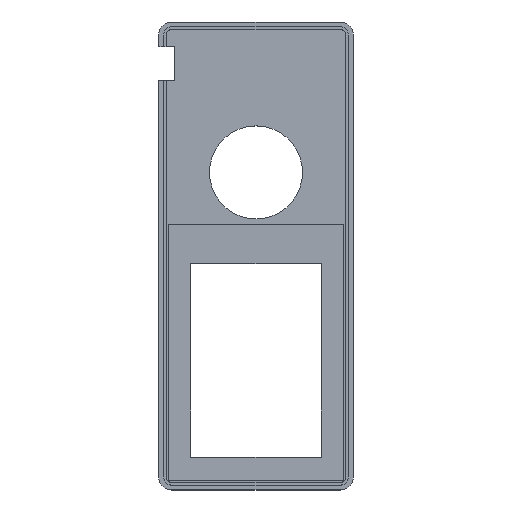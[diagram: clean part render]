
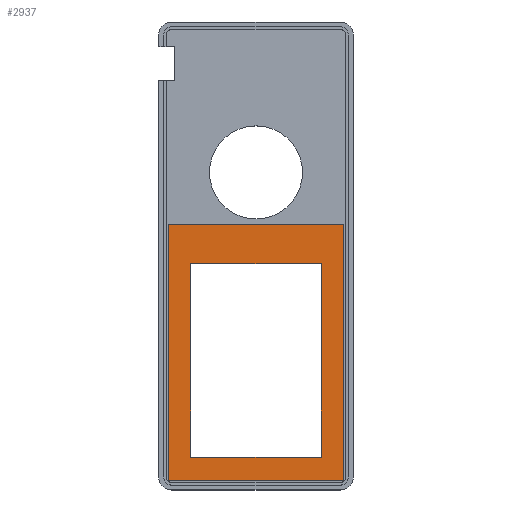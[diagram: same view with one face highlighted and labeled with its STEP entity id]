
A CAD part, top view. The second image highlights one B-rep face of the part: STEP entity #2937.
In plain terms, the highlighted planar face has unit normal (0, 0, 1).
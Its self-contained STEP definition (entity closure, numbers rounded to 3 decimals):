
#505 = PLANE('',#506);
#506 = AXIS2_PLACEMENT_3D('',#507,#508,#509);
#507 = CARTESIAN_POINT('',(12.12,86.12,2.));
#508 = DIRECTION('',(0.,-1.,0.));
#509 = DIRECTION('',(0.,0.,-1.));
#533 = PLANE('',#534);
#534 = AXIS2_PLACEMENT_3D('',#535,#536,#537);
#535 = CARTESIAN_POINT('',(12.12,86.12,2.));
#536 = DIRECTION('',(1.,0.,0.));
#537 = DIRECTION('',(0.,0.,-1.));
#561 = PLANE('',#562);
#562 = AXIS2_PLACEMENT_3D('',#563,#564,#565);
#563 = CARTESIAN_POINT('',(12.12,12.5,2.));
#564 = DIRECTION('',(0.,-1.,0.));
#565 = DIRECTION('',(0.,0.,-1.));
#587 = PLANE('',#588);
#588 = AXIS2_PLACEMENT_3D('',#589,#590,#591);
#589 = CARTESIAN_POINT('',(61.88,86.12,2.));
#590 = DIRECTION('',(1.,0.,0.));
#591 = DIRECTION('',(0.,0.,-1.));
#1666 = VERTEX_POINT('',#1667);
#1667 = CARTESIAN_POINT('',(61.88,86.12,0.4));
#1688 = EDGE_CURVE('',#1666,#1689,#1691,.T.);
#1689 = VERTEX_POINT('',#1690);
#1690 = CARTESIAN_POINT('',(12.12,86.12,0.4));
#1691 = SURFACE_CURVE('',#1692,(#1696,#1703),.PCURVE_S1.);
#1692 = LINE('',#1693,#1694);
#1693 = CARTESIAN_POINT('',(7.85,86.12,0.4));
#1694 = VECTOR('',#1695,1.);
#1695 = DIRECTION('',(-1.,-0.,0.));
#1696 = PCURVE('',#505,#1697);
#1697 = DEFINITIONAL_REPRESENTATION('',(#1698),#1702);
#1698 = LINE('',#1699,#1700);
#1699 = CARTESIAN_POINT('',(1.6,-4.27));
#1700 = VECTOR('',#1701,1.);
#1701 = DIRECTION('',(-0.,-1.));
#1702 = ( GEOMETRIC_REPRESENTATION_CONTEXT(2) 
PARAMETRIC_REPRESENTATION_CONTEXT() REPRESENTATION_CONTEXT('2D SPACE',''
  ) );
#1703 = PCURVE('',#1704,#1709);
#1704 = PLANE('',#1705);
#1705 = AXIS2_PLACEMENT_3D('',#1706,#1707,#1708);
#1706 = CARTESIAN_POINT('',(3.58,100.92,0.4));
#1707 = DIRECTION('',(0.,0.,-1.));
#1708 = DIRECTION('',(1.,0.,0.));
#1709 = DEFINITIONAL_REPRESENTATION('',(#1710),#1714);
#1710 = LINE('',#1711,#1712);
#1711 = CARTESIAN_POINT('',(4.27,14.8));
#1712 = VECTOR('',#1713,1.);
#1713 = DIRECTION('',(-1.,0.));
#1714 = ( GEOMETRIC_REPRESENTATION_CONTEXT(2) 
PARAMETRIC_REPRESENTATION_CONTEXT() REPRESENTATION_CONTEXT('2D SPACE',''
  ) );
#1742 = EDGE_CURVE('',#1666,#1743,#1745,.T.);
#1743 = VERTEX_POINT('',#1744);
#1744 = CARTESIAN_POINT('',(61.88,12.5,0.4));
#1745 = SURFACE_CURVE('',#1746,(#1750,#1757),.PCURVE_S1.);
#1746 = LINE('',#1747,#1748);
#1747 = CARTESIAN_POINT('',(61.88,93.52,0.4));
#1748 = VECTOR('',#1749,1.);
#1749 = DIRECTION('',(0.,-1.,0.));
#1750 = PCURVE('',#587,#1751);
#1751 = DEFINITIONAL_REPRESENTATION('',(#1752),#1756);
#1752 = LINE('',#1753,#1754);
#1753 = CARTESIAN_POINT('',(1.6,7.4));
#1754 = VECTOR('',#1755,1.);
#1755 = DIRECTION('',(0.,-1.));
#1756 = ( GEOMETRIC_REPRESENTATION_CONTEXT(2) 
PARAMETRIC_REPRESENTATION_CONTEXT() REPRESENTATION_CONTEXT('2D SPACE',''
  ) );
#1757 = PCURVE('',#1704,#1758);
#1758 = DEFINITIONAL_REPRESENTATION('',(#1759),#1763);
#1759 = LINE('',#1760,#1761);
#1760 = CARTESIAN_POINT('',(58.3,7.4));
#1761 = VECTOR('',#1762,1.);
#1762 = DIRECTION('',(0.,1.));
#1763 = ( GEOMETRIC_REPRESENTATION_CONTEXT(2) 
PARAMETRIC_REPRESENTATION_CONTEXT() REPRESENTATION_CONTEXT('2D SPACE',''
  ) );
#1791 = EDGE_CURVE('',#1689,#1792,#1794,.T.);
#1792 = VERTEX_POINT('',#1793);
#1793 = CARTESIAN_POINT('',(12.12,12.5,0.4));
#1794 = SURFACE_CURVE('',#1795,(#1799,#1806),.PCURVE_S1.);
#1795 = LINE('',#1796,#1797);
#1796 = CARTESIAN_POINT('',(12.12,93.52,0.4));
#1797 = VECTOR('',#1798,1.);
#1798 = DIRECTION('',(0.,-1.,0.));
#1799 = PCURVE('',#533,#1800);
#1800 = DEFINITIONAL_REPRESENTATION('',(#1801),#1805);
#1801 = LINE('',#1802,#1803);
#1802 = CARTESIAN_POINT('',(1.6,7.4));
#1803 = VECTOR('',#1804,1.);
#1804 = DIRECTION('',(0.,-1.));
#1805 = ( GEOMETRIC_REPRESENTATION_CONTEXT(2) 
PARAMETRIC_REPRESENTATION_CONTEXT() REPRESENTATION_CONTEXT('2D SPACE',''
  ) );
#1806 = PCURVE('',#1704,#1807);
#1807 = DEFINITIONAL_REPRESENTATION('',(#1808),#1812);
#1808 = LINE('',#1809,#1810);
#1809 = CARTESIAN_POINT('',(8.54,7.4));
#1810 = VECTOR('',#1811,1.);
#1811 = DIRECTION('',(0.,1.));
#1812 = ( GEOMETRIC_REPRESENTATION_CONTEXT(2) 
PARAMETRIC_REPRESENTATION_CONTEXT() REPRESENTATION_CONTEXT('2D SPACE',''
  ) );
#1840 = EDGE_CURVE('',#1743,#1792,#1841,.T.);
#1841 = SURFACE_CURVE('',#1842,(#1846,#1853),.PCURVE_S1.);
#1842 = LINE('',#1843,#1844);
#1843 = CARTESIAN_POINT('',(7.85,12.5,0.4));
#1844 = VECTOR('',#1845,1.);
#1845 = DIRECTION('',(-1.,-0.,0.));
#1846 = PCURVE('',#561,#1847);
#1847 = DEFINITIONAL_REPRESENTATION('',(#1848),#1852);
#1848 = LINE('',#1849,#1850);
#1849 = CARTESIAN_POINT('',(1.6,-4.27));
#1850 = VECTOR('',#1851,1.);
#1851 = DIRECTION('',(-0.,-1.));
#1852 = ( GEOMETRIC_REPRESENTATION_CONTEXT(2) 
PARAMETRIC_REPRESENTATION_CONTEXT() REPRESENTATION_CONTEXT('2D SPACE',''
  ) );
#1853 = PCURVE('',#1704,#1854);
#1854 = DEFINITIONAL_REPRESENTATION('',(#1855),#1859);
#1855 = LINE('',#1856,#1857);
#1856 = CARTESIAN_POINT('',(4.27,88.42));
#1857 = VECTOR('',#1858,1.);
#1858 = DIRECTION('',(-1.,0.));
#1859 = ( GEOMETRIC_REPRESENTATION_CONTEXT(2) 
PARAMETRIC_REPRESENTATION_CONTEXT() REPRESENTATION_CONTEXT('2D SPACE',''
  ) );
#2621 = PLANE('',#2622);
#2622 = AXIS2_PLACEMENT_3D('',#2623,#2624,#2625);
#2623 = CARTESIAN_POINT('',(3.58,100.92,1.7));
#2624 = DIRECTION('',(0.,-1.,0.));
#2625 = DIRECTION('',(0.,0.,-1.));
#2649 = PLANE('',#2650);
#2650 = AXIS2_PLACEMENT_3D('',#2651,#2652,#2653);
#2651 = CARTESIAN_POINT('',(3.58,100.92,1.7));
#2652 = DIRECTION('',(1.,0.,0.));
#2653 = DIRECTION('',(0.,0.,-1.));
#2677 = PLANE('',#2678);
#2678 = AXIS2_PLACEMENT_3D('',#2679,#2680,#2681);
#2679 = CARTESIAN_POINT('',(3.58,3.6,1.7));
#2680 = DIRECTION('',(0.,-1.,0.));
#2681 = DIRECTION('',(0.,0.,-1.));
#2703 = PLANE('',#2704);
#2704 = AXIS2_PLACEMENT_3D('',#2705,#2706,#2707);
#2705 = CARTESIAN_POINT('',(70.42,100.92,1.7));
#2706 = DIRECTION('',(1.,0.,0.));
#2707 = DIRECTION('',(0.,0.,-1.));
#2937 = ADVANCED_FACE('',(#2938,#3032),#1704,.F.);
#2938 = FACE_BOUND('',#2939,.F.);
#2939 = EDGE_LOOP('',(#2940,#2965,#2988,#3011));
#2940 = ORIENTED_EDGE('',*,*,#2941,.F.);
#2941 = EDGE_CURVE('',#2942,#2944,#2946,.T.);
#2942 = VERTEX_POINT('',#2943);
#2943 = CARTESIAN_POINT('',(3.58,100.92,0.4));
#2944 = VERTEX_POINT('',#2945);
#2945 = CARTESIAN_POINT('',(3.58,3.6,0.4));
#2946 = SURFACE_CURVE('',#2947,(#2951,#2958),.PCURVE_S1.);
#2947 = LINE('',#2948,#2949);
#2948 = CARTESIAN_POINT('',(3.58,100.92,0.4));
#2949 = VECTOR('',#2950,1.);
#2950 = DIRECTION('',(0.,-1.,0.));
#2951 = PCURVE('',#1704,#2952);
#2952 = DEFINITIONAL_REPRESENTATION('',(#2953),#2957);
#2953 = LINE('',#2954,#2955);
#2954 = CARTESIAN_POINT('',(0.,0.));
#2955 = VECTOR('',#2956,1.);
#2956 = DIRECTION('',(0.,1.));
#2957 = ( GEOMETRIC_REPRESENTATION_CONTEXT(2) 
PARAMETRIC_REPRESENTATION_CONTEXT() REPRESENTATION_CONTEXT('2D SPACE',''
  ) );
#2958 = PCURVE('',#2649,#2959);
#2959 = DEFINITIONAL_REPRESENTATION('',(#2960),#2964);
#2960 = LINE('',#2961,#2962);
#2961 = CARTESIAN_POINT('',(1.3,0.));
#2962 = VECTOR('',#2963,1.);
#2963 = DIRECTION('',(0.,-1.));
#2964 = ( GEOMETRIC_REPRESENTATION_CONTEXT(2) 
PARAMETRIC_REPRESENTATION_CONTEXT() REPRESENTATION_CONTEXT('2D SPACE',''
  ) );
#2965 = ORIENTED_EDGE('',*,*,#2966,.T.);
#2966 = EDGE_CURVE('',#2942,#2967,#2969,.T.);
#2967 = VERTEX_POINT('',#2968);
#2968 = CARTESIAN_POINT('',(70.42,100.92,0.4));
#2969 = SURFACE_CURVE('',#2970,(#2974,#2981),.PCURVE_S1.);
#2970 = LINE('',#2971,#2972);
#2971 = CARTESIAN_POINT('',(3.58,100.92,0.4));
#2972 = VECTOR('',#2973,1.);
#2973 = DIRECTION('',(1.,0.,0.));
#2974 = PCURVE('',#1704,#2975);
#2975 = DEFINITIONAL_REPRESENTATION('',(#2976),#2980);
#2976 = LINE('',#2977,#2978);
#2977 = CARTESIAN_POINT('',(0.,0.));
#2978 = VECTOR('',#2979,1.);
#2979 = DIRECTION('',(1.,0.));
#2980 = ( GEOMETRIC_REPRESENTATION_CONTEXT(2) 
PARAMETRIC_REPRESENTATION_CONTEXT() REPRESENTATION_CONTEXT('2D SPACE',''
  ) );
#2981 = PCURVE('',#2621,#2982);
#2982 = DEFINITIONAL_REPRESENTATION('',(#2983),#2987);
#2983 = LINE('',#2984,#2985);
#2984 = CARTESIAN_POINT('',(1.3,0.));
#2985 = VECTOR('',#2986,1.);
#2986 = DIRECTION('',(0.,1.));
#2987 = ( GEOMETRIC_REPRESENTATION_CONTEXT(2) 
PARAMETRIC_REPRESENTATION_CONTEXT() REPRESENTATION_CONTEXT('2D SPACE',''
  ) );
#2988 = ORIENTED_EDGE('',*,*,#2989,.T.);
#2989 = EDGE_CURVE('',#2967,#2990,#2992,.T.);
#2990 = VERTEX_POINT('',#2991);
#2991 = CARTESIAN_POINT('',(70.42,3.6,0.4));
#2992 = SURFACE_CURVE('',#2993,(#2997,#3004),.PCURVE_S1.);
#2993 = LINE('',#2994,#2995);
#2994 = CARTESIAN_POINT('',(70.42,100.92,0.4));
#2995 = VECTOR('',#2996,1.);
#2996 = DIRECTION('',(0.,-1.,0.));
#2997 = PCURVE('',#1704,#2998);
#2998 = DEFINITIONAL_REPRESENTATION('',(#2999),#3003);
#2999 = LINE('',#3000,#3001);
#3000 = CARTESIAN_POINT('',(66.84,0.));
#3001 = VECTOR('',#3002,1.);
#3002 = DIRECTION('',(0.,1.));
#3003 = ( GEOMETRIC_REPRESENTATION_CONTEXT(2) 
PARAMETRIC_REPRESENTATION_CONTEXT() REPRESENTATION_CONTEXT('2D SPACE',''
  ) );
#3004 = PCURVE('',#2703,#3005);
#3005 = DEFINITIONAL_REPRESENTATION('',(#3006),#3010);
#3006 = LINE('',#3007,#3008);
#3007 = CARTESIAN_POINT('',(1.3,0.));
#3008 = VECTOR('',#3009,1.);
#3009 = DIRECTION('',(0.,-1.));
#3010 = ( GEOMETRIC_REPRESENTATION_CONTEXT(2) 
PARAMETRIC_REPRESENTATION_CONTEXT() REPRESENTATION_CONTEXT('2D SPACE',''
  ) );
#3011 = ORIENTED_EDGE('',*,*,#3012,.F.);
#3012 = EDGE_CURVE('',#2944,#2990,#3013,.T.);
#3013 = SURFACE_CURVE('',#3014,(#3018,#3025),.PCURVE_S1.);
#3014 = LINE('',#3015,#3016);
#3015 = CARTESIAN_POINT('',(3.58,3.6,0.4));
#3016 = VECTOR('',#3017,1.);
#3017 = DIRECTION('',(1.,0.,0.));
#3018 = PCURVE('',#1704,#3019);
#3019 = DEFINITIONAL_REPRESENTATION('',(#3020),#3024);
#3020 = LINE('',#3021,#3022);
#3021 = CARTESIAN_POINT('',(0.,97.32));
#3022 = VECTOR('',#3023,1.);
#3023 = DIRECTION('',(1.,0.));
#3024 = ( GEOMETRIC_REPRESENTATION_CONTEXT(2) 
PARAMETRIC_REPRESENTATION_CONTEXT() REPRESENTATION_CONTEXT('2D SPACE',''
  ) );
#3025 = PCURVE('',#2677,#3026);
#3026 = DEFINITIONAL_REPRESENTATION('',(#3027),#3031);
#3027 = LINE('',#3028,#3029);
#3028 = CARTESIAN_POINT('',(1.3,0.));
#3029 = VECTOR('',#3030,1.);
#3030 = DIRECTION('',(0.,1.));
#3031 = ( GEOMETRIC_REPRESENTATION_CONTEXT(2) 
PARAMETRIC_REPRESENTATION_CONTEXT() REPRESENTATION_CONTEXT('2D SPACE',''
  ) );
#3032 = FACE_BOUND('',#3033,.F.);
#3033 = EDGE_LOOP('',(#3034,#3035,#3036,#3037));
#3034 = ORIENTED_EDGE('',*,*,#1688,.T.);
#3035 = ORIENTED_EDGE('',*,*,#1791,.T.);
#3036 = ORIENTED_EDGE('',*,*,#1840,.F.);
#3037 = ORIENTED_EDGE('',*,*,#1742,.F.);
